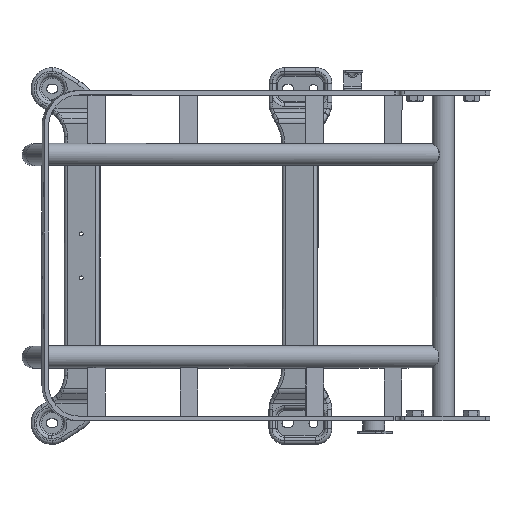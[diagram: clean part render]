
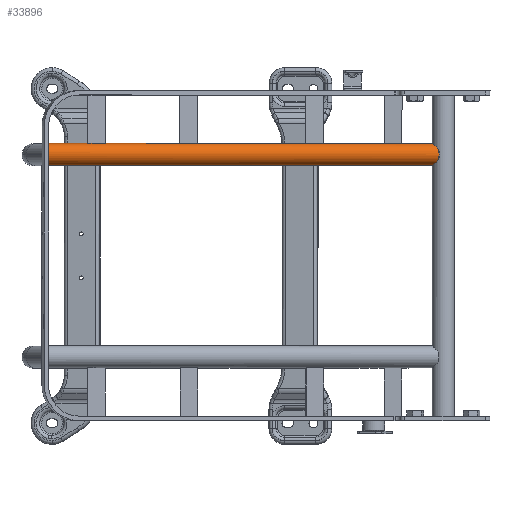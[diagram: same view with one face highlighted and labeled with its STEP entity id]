
A CAD part, top view. The second image highlights one B-rep face of the part: STEP entity #33896.
In plain terms, the highlighted cylindrical face has radius 12.5 mm (diameter 25 mm), a partial arc.
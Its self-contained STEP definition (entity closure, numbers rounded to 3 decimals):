
#33785=AXIS2_PLACEMENT_3D('Circle Axis2P3D',#33783,#33784,$) ;
#33823=AXIS2_PLACEMENT_3D('Cylinder Axis2P3D',#33820,#33821,#33822) ;
#33850=AXIS2_PLACEMENT_3D('Circle Axis2P3D',#33848,#33849,$) ;
#33783=CARTESIAN_POINT('Axis2P3D Location',(505.797,988.656,309.422)) ;
#33787=CARTESIAN_POINT('Vertex',(505.786,1001.156,309.422)) ;
#33789=CARTESIAN_POINT('Vertex',(505.807,976.156,309.422)) ;
#33820=CARTESIAN_POINT('Axis2P3D Location',(728.276,988.841,312.468)) ;
#33826=CARTESIAN_POINT('Control Point',(943.696,976.526,315.8)) ;
#33827=CARTESIAN_POINT('Control Point',(943.694,976.522,315.672)) ;
#33828=CARTESIAN_POINT('Control Point',(943.694,976.52,315.545)) ;
#33829=CARTESIAN_POINT('Control Point',(943.696,976.52,315.418)) ;
#33830=CARTESIAN_POINT('Vertex',(943.696,976.526,315.8)) ;
#33832=CARTESIAN_POINT('Vertex',(943.696,976.52,315.418)) ;
#33836=CARTESIAN_POINT('Control Point',(950.605,983.596,326.772)) ;
#33837=CARTESIAN_POINT('Control Point',(949.422,982.403,326.181)) ;
#33838=CARTESIAN_POINT('Control Point',(948.283,981.252,325.416)) ;
#33839=CARTESIAN_POINT('Control Point',(947.205,980.158,324.463)) ;
#33840=CARTESIAN_POINT('Control Point',(945.493,978.416,322.425)) ;
#33841=CARTESIAN_POINT('Control Point',(944.308,977.193,319.761)) ;
#33842=CARTESIAN_POINT('Control Point',(943.924,976.791,318.493)) ;
#33843=CARTESIAN_POINT('Control Point',(943.719,976.567,317.151)) ;
#33844=CARTESIAN_POINT('Control Point',(943.696,976.526,315.8)) ;
#33845=CARTESIAN_POINT('Vertex',(950.605,983.596,326.772)) ;
#33848=CARTESIAN_POINT('Axis2P3D Location',(950.755,989.026,315.514)) ;
#33852=CARTESIAN_POINT('Vertex',(950.596,994.455,326.772)) ;
#33856=CARTESIAN_POINT('Control Point',(950.596,994.455,326.772)) ;
#33857=CARTESIAN_POINT('Control Point',(949.411,995.647,326.181)) ;
#33858=CARTESIAN_POINT('Control Point',(948.27,996.796,325.416)) ;
#33859=CARTESIAN_POINT('Control Point',(947.19,997.887,324.463)) ;
#33860=CARTESIAN_POINT('Control Point',(945.475,999.627,322.425)) ;
#33861=CARTESIAN_POINT('Control Point',(944.289,1000.848,319.761)) ;
#33862=CARTESIAN_POINT('Control Point',(943.904,1001.249,318.493)) ;
#33863=CARTESIAN_POINT('Control Point',(943.698,1001.473,317.151)) ;
#33864=CARTESIAN_POINT('Control Point',(943.675,1001.514,315.8)) ;
#33865=CARTESIAN_POINT('Vertex',(943.675,1001.514,315.8)) ;
#33869=CARTESIAN_POINT('Control Point',(943.675,1001.514,315.8)) ;
#33870=CARTESIAN_POINT('Control Point',(943.673,1001.518,315.672)) ;
#33871=CARTESIAN_POINT('Control Point',(943.673,1001.52,315.545)) ;
#33872=CARTESIAN_POINT('Control Point',(943.675,1001.52,315.418)) ;
#33873=CARTESIAN_POINT('Vertex',(943.675,1001.52,315.418)) ;
#33876=CARTESIAN_POINT('Line Origine',(728.265,1001.341,312.468)) ;
#33881=CARTESIAN_POINT('Line Origine',(728.286,976.341,312.468)) ;
#33784=DIRECTION('Axis2P3D Direction',(1.,0.001,0.014)) ;
#33821=DIRECTION('Axis2P3D Direction',(1.,0.001,0.014)) ;
#33822=DIRECTION('Axis2P3D XDirection',(-0.001,1.,0.)) ;
#33849=DIRECTION('Axis2P3D Direction',(1.,0.001,0.014)) ;
#33877=DIRECTION('Vector Direction',(1.,0.001,0.014)) ;
#33882=DIRECTION('Vector Direction',(1.,0.001,0.014)) ;
#33878=VECTOR('Line Direction',#33877,1.) ;
#33883=VECTOR('Line Direction',#33882,1.) ;
#33887=ORIENTED_EDGE('',*,*,#33834,.F.) ;
#33888=ORIENTED_EDGE('',*,*,#33847,.F.) ;
#33889=ORIENTED_EDGE('',*,*,#33854,.F.) ;
#33890=ORIENTED_EDGE('',*,*,#33867,.T.) ;
#33891=ORIENTED_EDGE('',*,*,#33875,.T.) ;
#33892=ORIENTED_EDGE('',*,*,#33880,.F.) ;
#33893=ORIENTED_EDGE('',*,*,#33791,.T.) ;
#33894=ORIENTED_EDGE('',*,*,#33885,.T.) ;
#33896=ADVANCED_FACE('\X2\96F64EF651E04F554F53\X0\',(#33895),#33824,.T.) ;
#33825=B_SPLINE_CURVE_WITH_KNOTS('',3,(#33826,#33827,#33828,#33829),.UNSPECIFIED.,.F.,.U.,(4,4),(0.,0.54),.UNSPECIFIED.) ;
#33835=B_SPLINE_CURVE_WITH_KNOTS('',5,(#33836,#33837,#33838,#33839,#33840,#33841,#33842,#33843,#33844),.UNSPECIFIED.,.F.,.U.,(6,3,6),(0.,12.65,22.249),.UNSPECIFIED.) ;
#33855=B_SPLINE_CURVE_WITH_KNOTS('',5,(#33856,#33857,#33858,#33859,#33860,#33861,#33862,#33863,#33864),.UNSPECIFIED.,.F.,.U.,(6,3,6),(0.,12.65,22.249),.UNSPECIFIED.) ;
#33868=B_SPLINE_CURVE_WITH_KNOTS('',3,(#33869,#33870,#33871,#33872),.UNSPECIFIED.,.F.,.U.,(4,4),(0.,0.54),.UNSPECIFIED.) ;
#33786=CIRCLE('generated circle',#33785,12.5) ;
#33851=CIRCLE('generated circle',#33850,12.5) ;
#33824=CYLINDRICAL_SURFACE('generated cylinder',#33823,12.5) ;
#33791=EDGE_CURVE('',#33788,#33790,#33786,.T.) ;
#33834=EDGE_CURVE('',#33831,#33833,#33825,.T.) ;
#33847=EDGE_CURVE('',#33846,#33831,#33835,.T.) ;
#33854=EDGE_CURVE('',#33853,#33846,#33851,.T.) ;
#33867=EDGE_CURVE('',#33853,#33866,#33855,.T.) ;
#33875=EDGE_CURVE('',#33866,#33874,#33868,.T.) ;
#33880=EDGE_CURVE('',#33788,#33874,#33879,.T.) ;
#33885=EDGE_CURVE('',#33790,#33833,#33884,.T.) ;
#33886=EDGE_LOOP('',(#33887,#33888,#33889,#33890,#33891,#33892,#33893,#33894)) ;
#33895=FACE_OUTER_BOUND('',#33886,.T.) ;
#33879=LINE('Line',#33876,#33878) ;
#33884=LINE('Line',#33881,#33883) ;
#33788=VERTEX_POINT('',#33787) ;
#33790=VERTEX_POINT('',#33789) ;
#33831=VERTEX_POINT('',#33830) ;
#33833=VERTEX_POINT('',#33832) ;
#33846=VERTEX_POINT('',#33845) ;
#33853=VERTEX_POINT('',#33852) ;
#33866=VERTEX_POINT('',#33865) ;
#33874=VERTEX_POINT('',#33873) ;
